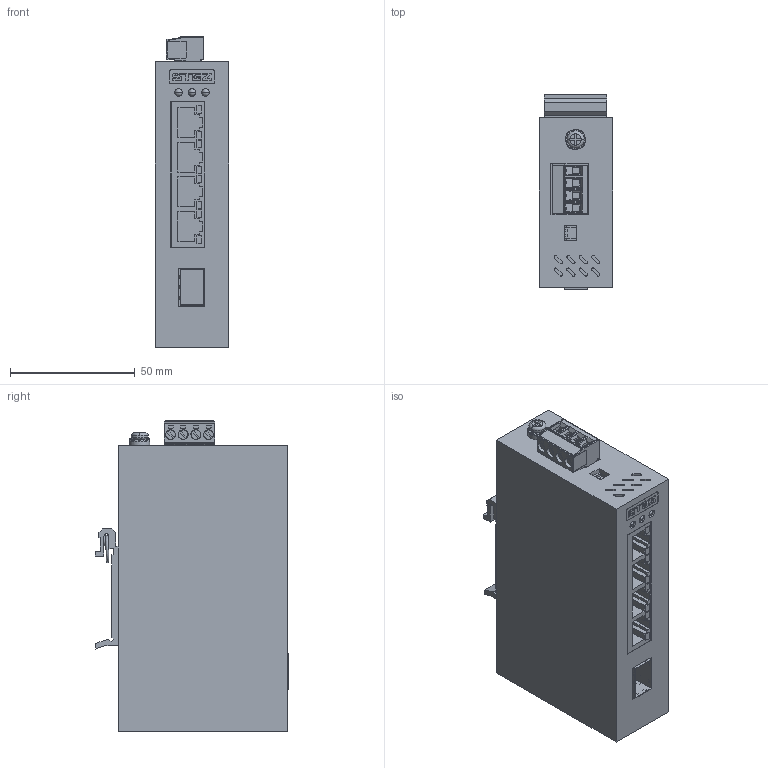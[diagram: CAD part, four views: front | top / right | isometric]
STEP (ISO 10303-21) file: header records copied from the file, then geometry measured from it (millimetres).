
FILE_DESCRIPTION(('TFLEX Exchange Step'),'2;1');
FILE_NAME('70310003_STEZ1004-SFP.stp', '2025-08-26T12:47:46+03:00',('YLedovskikh'),('Unknown organisation'),'TFLEX Exchange 2023.2','T-FLEX CAD','Unknown authorisation');
FILE_SCHEMA( ('AUTOMOTIVE_DESIGN { 1 0 10303 214 1 1 1 1 }') );
Length unit declared in the file: millimetre
Products named in the file (1): Тело_2:1
Bounding box: 29.6 x 77.9 x 124.55 mm (x, y, z)
Volume: 223963.5 mm3; surface area: 46488.2 mm2
Topology: 3 solids, 17 shells, 1610 faces, 4531 edges, 3014 vertices
Faces by surface type: plane 981, cylinder 403, bspline 160, torus 22, extrusion 16, cone 16, sphere 12
Full cylindrical faces by diameter (mm): 1 x3, 1.3 x4, 3 x7, 3.821 x4, 4 x6, 4.4 x1, 6.8 x1, 8 x1
Entity records: 54759 total; most frequent: CARTESIAN_POINT 12966, ORIENTED_EDGE 9034, DIRECTION 7852, EDGE_CURVE 4517, VECTOR 3014, VERTEX_POINT 3010, LINE 2998, AXIS2_PLACEMENT_3D 2419
